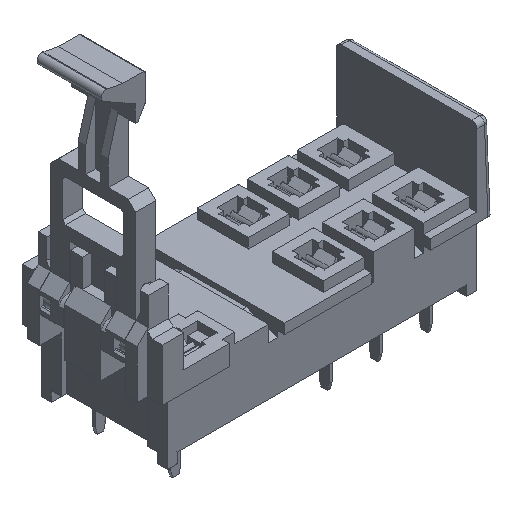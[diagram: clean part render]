
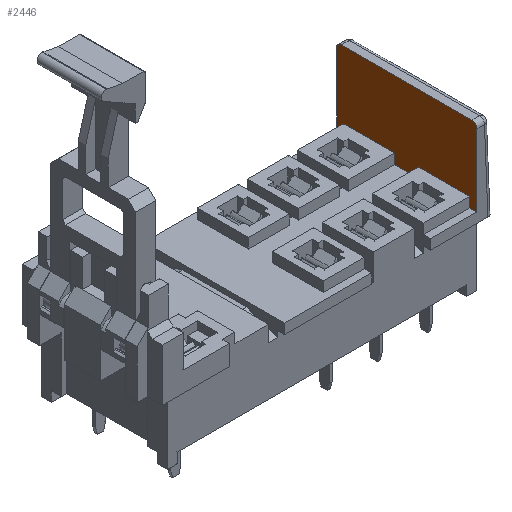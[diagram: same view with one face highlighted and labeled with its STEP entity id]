
A CAD part, isometric view. The second image highlights one B-rep face of the part: STEP entity #2446.
In plain terms, the highlighted planar face has unit normal (-1, 0, 0).
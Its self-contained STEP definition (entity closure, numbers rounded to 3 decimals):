
#88 = VERTEX_POINT ( 'NONE', #9881 ) ;
#484 = LINE ( 'NONE', #39869, #45935 ) ;
#700 = DIRECTION ( 'NONE',  ( 0., 0., -1. ) ) ;
#1027 = LINE ( 'NONE', #16275, #9458 ) ;
#1081 = EDGE_CURVE ( 'NONE', #25223, #33862, #26789, .T. ) ;
#1278 = VECTOR ( 'NONE', #20812, 1000. ) ;
#1338 = CARTESIAN_POINT ( 'NONE',  ( 19.021, 0.297, 6.5 ) ) ;
#1502 = ORIENTED_EDGE ( 'NONE', *, *, #1081, .T. ) ;
#1569 = CARTESIAN_POINT ( 'NONE',  ( 19.021, -2.103, 7.5 ) ) ;
#1783 = CARTESIAN_POINT ( 'NONE',  ( 19.021, -7.903, 6.5 ) ) ;
#1983 = VERTEX_POINT ( 'NONE', #17675 ) ;
#2160 = CARTESIAN_POINT ( 'NONE',  ( 19.021, -2.103, 6.5 ) ) ;
#2254 = VERTEX_POINT ( 'NONE', #2160 ) ;
#2446 = ADVANCED_FACE ( 'NONE', ( #37859 ), #38178, .T. ) ;
#3026 = EDGE_CURVE ( 'NONE', #43461, #21349, #28796, .T. ) ;
#3183 = VERTEX_POINT ( 'NONE', #10801 ) ;
#3370 = ORIENTED_EDGE ( 'NONE', *, *, #11118, .T. ) ;
#3650 = VECTOR ( 'NONE', #10959, 1000. ) ;
#3954 = ORIENTED_EDGE ( 'NONE', *, *, #14059, .T. ) ;
#4601 = VECTOR ( 'NONE', #41836, 1000. ) ;
#5020 = VERTEX_POINT ( 'NONE', #39804 ) ;
#5376 = CARTESIAN_POINT ( 'NONE',  ( 19.021, -7.403, 14.2 ) ) ;
#6069 = ORIENTED_EDGE ( 'NONE', *, *, #30506, .T. ) ;
#6486 = LINE ( 'NONE', #22325, #43508 ) ;
#6504 = EDGE_LOOP ( 'NONE', ( #7774, #31940, #19379, #17737, #16801, #16631, #13594, #3370, #3954, #19586, #37402, #1502, #6069, #41948 ) ) ;
#6631 = EDGE_CURVE ( 'NONE', #21349, #18273, #43144, .T. ) ;
#7206 = CARTESIAN_POINT ( 'NONE',  ( 19.021, 0.297, 7.5 ) ) ;
#7322 = CARTESIAN_POINT ( 'NONE',  ( 19.021, 5.397, 7.5 ) ) ;
#7487 = CARTESIAN_POINT ( 'NONE',  ( 19.021, 5.397, 6.5 ) ) ;
#7774 = ORIENTED_EDGE ( 'NONE', *, *, #20489, .T. ) ;
#8027 = EDGE_CURVE ( 'NONE', #36362, #5020, #1027, .T. ) ;
#8461 = CIRCLE ( 'NONE', #25378, 0.5 ) ;
#8988 = DIRECTION ( 'NONE',  ( 0., 1., 0. ) ) ;
#9335 = CARTESIAN_POINT ( 'NONE',  ( 19.021, 5.597, 13.7 ) ) ;
#9458 = VECTOR ( 'NONE', #37751, 1000. ) ;
#9484 = EDGE_CURVE ( 'NONE', #18273, #32052, #32274, .T. ) ;
#9881 = CARTESIAN_POINT ( 'NONE',  ( 19.021, 5.597, 14.2 ) ) ;
#10607 = DIRECTION ( 'NONE',  ( -1., 0., 0. ) ) ;
#10801 = CARTESIAN_POINT ( 'NONE',  ( 19.021, 6.097, 6.5 ) ) ;
#10959 = DIRECTION ( 'NONE',  ( 0., 0., -1. ) ) ;
#11118 = EDGE_CURVE ( 'NONE', #2254, #40190, #41639, .T. ) ;
#11244 = AXIS2_PLACEMENT_3D ( 'NONE', #12041, #37130, #15639 ) ;
#12041 = CARTESIAN_POINT ( 'NONE',  ( 19.021, 5.597, 13.7 ) ) ;
#13594 = ORIENTED_EDGE ( 'NONE', *, *, #30069, .T. ) ;
#14059 = EDGE_CURVE ( 'NONE', #40190, #36362, #21439, .T. ) ;
#14393 = VECTOR ( 'NONE', #8988, 1000. ) ;
#15328 = DIRECTION ( 'NONE',  ( 0., -1., 0. ) ) ;
#15515 = LINE ( 'NONE', #5376, #14393 ) ;
#15639 = DIRECTION ( 'NONE',  ( 0., 0., 1. ) ) ;
#15932 = CARTESIAN_POINT ( 'NONE',  ( 19.021, -7.903, 6.5 ) ) ;
#16275 = CARTESIAN_POINT ( 'NONE',  ( 19.021, -7.203, 7.5 ) ) ;
#16631 = ORIENTED_EDGE ( 'NONE', *, *, #9484, .T. ) ;
#16801 = ORIENTED_EDGE ( 'NONE', *, *, #6631, .T. ) ;
#16937 = LINE ( 'NONE', #40416, #25315 ) ;
#17111 = DIRECTION ( 'NONE',  ( 0., 0., 1. ) ) ;
#17258 = CARTESIAN_POINT ( 'NONE',  ( 19.021, -2.103, 7.5 ) ) ;
#17675 = CARTESIAN_POINT ( 'NONE',  ( 19.021, -7.403, 14.2 ) ) ;
#17737 = ORIENTED_EDGE ( 'NONE', *, *, #3026, .T. ) ;
#18273 = VERTEX_POINT ( 'NONE', #33318 ) ;
#18351 = VECTOR ( 'NONE', #26866, 1000. ) ;
#19194 = CARTESIAN_POINT ( 'NONE',  ( 19.021, 6.097, 13.7 ) ) ;
#19239 = EDGE_CURVE ( 'NONE', #45910, #3183, #6486, .T. ) ;
#19246 = VECTOR ( 'NONE', #17111, 1000. ) ;
#19379 = ORIENTED_EDGE ( 'NONE', *, *, #26863, .T. ) ;
#19586 = ORIENTED_EDGE ( 'NONE', *, *, #8027, .T. ) ;
#19981 = CARTESIAN_POINT ( 'NONE',  ( 19.021, -7.203, 7.5 ) ) ;
#20295 = DIRECTION ( 'NONE',  ( 0., 0., 1. ) ) ;
#20489 = EDGE_CURVE ( 'NONE', #88, #45910, #26059, .T. ) ;
#20812 = DIRECTION ( 'NONE',  ( 0., -1., 0. ) ) ;
#21349 = VERTEX_POINT ( 'NONE', #29656 ) ;
#21439 = LINE ( 'NONE', #17258, #1278 ) ;
#22325 = CARTESIAN_POINT ( 'NONE',  ( 19.021, 6.097, 13.7 ) ) ;
#23123 = EDGE_CURVE ( 'NONE', #5020, #25223, #34240, .T. ) ;
#24092 = VECTOR ( 'NONE', #28798, 1000. ) ;
#24679 = VECTOR ( 'NONE', #37035, 1000. ) ;
#25223 = VERTEX_POINT ( 'NONE', #15932 ) ;
#25315 = VECTOR ( 'NONE', #15328, 1000. ) ;
#25378 = AXIS2_PLACEMENT_3D ( 'NONE', #32085, #10607, #35696 ) ;
#26059 = CIRCLE ( 'NONE', #11244, 0.5 ) ;
#26789 = LINE ( 'NONE', #1783, #18351 ) ;
#26863 = EDGE_CURVE ( 'NONE', #3183, #43461, #484, .T. ) ;
#26866 = DIRECTION ( 'NONE',  ( 0., 0., 1. ) ) ;
#27749 = CARTESIAN_POINT ( 'NONE',  ( 19.021, 5.397, 6.5 ) ) ;
#28796 = LINE ( 'NONE', #27749, #19246 ) ;
#28798 = DIRECTION ( 'NONE',  ( 0., -1., 0. ) ) ;
#29508 = CARTESIAN_POINT ( 'NONE',  ( 19.021, -7.203, 6.5 ) ) ;
#29656 = CARTESIAN_POINT ( 'NONE',  ( 19.021, 5.397, 7.5 ) ) ;
#30069 = EDGE_CURVE ( 'NONE', #32052, #2254, #16937, .T. ) ;
#30506 = EDGE_CURVE ( 'NONE', #33862, #1983, #8461, .T. ) ;
#31940 = ORIENTED_EDGE ( 'NONE', *, *, #19239, .T. ) ;
#32052 = VERTEX_POINT ( 'NONE', #1338 ) ;
#32085 = CARTESIAN_POINT ( 'NONE',  ( 19.021, -7.403, 13.7 ) ) ;
#32274 = LINE ( 'NONE', #7206, #3650 ) ;
#32648 = DIRECTION ( 'NONE',  ( 0., -1., 0. ) ) ;
#32666 = EDGE_CURVE ( 'NONE', #1983, #88, #15515, .T. ) ;
#33318 = CARTESIAN_POINT ( 'NONE',  ( 19.021, 0.297, 7.5 ) ) ;
#33862 = VERTEX_POINT ( 'NONE', #37251 ) ;
#34240 = LINE ( 'NONE', #29508, #24679 ) ;
#34654 = CARTESIAN_POINT ( 'NONE',  ( 19.021, -2.103, 6.5 ) ) ;
#35696 = DIRECTION ( 'NONE',  ( 0., 0., 1. ) ) ;
#36362 = VERTEX_POINT ( 'NONE', #19981 ) ;
#36887 = AXIS2_PLACEMENT_3D ( 'NONE', #9335, #41755, #20295 ) ;
#37035 = DIRECTION ( 'NONE',  ( 0., -1., 0. ) ) ;
#37130 = DIRECTION ( 'NONE',  ( -1., 0., 0. ) ) ;
#37251 = CARTESIAN_POINT ( 'NONE',  ( 19.021, -7.903, 13.7 ) ) ;
#37402 = ORIENTED_EDGE ( 'NONE', *, *, #23123, .T. ) ;
#37751 = DIRECTION ( 'NONE',  ( 0., 0., -1. ) ) ;
#37859 = FACE_OUTER_BOUND ( 'NONE', #6504, .T. ) ;
#38178 = PLANE ( 'NONE',  #36887 ) ;
#39804 = CARTESIAN_POINT ( 'NONE',  ( 19.021, -7.203, 6.5 ) ) ;
#39869 = CARTESIAN_POINT ( 'NONE',  ( 19.021, 6.097, 6.5 ) ) ;
#40190 = VERTEX_POINT ( 'NONE', #1569 ) ;
#40416 = CARTESIAN_POINT ( 'NONE',  ( 19.021, 0.297, 6.5 ) ) ;
#41639 = LINE ( 'NONE', #34654, #4601 ) ;
#41755 = DIRECTION ( 'NONE',  ( -1., 0., 0. ) ) ;
#41836 = DIRECTION ( 'NONE',  ( 0., 0., 1. ) ) ;
#41948 = ORIENTED_EDGE ( 'NONE', *, *, #32666, .T. ) ;
#43144 = LINE ( 'NONE', #7322, #24092 ) ;
#43461 = VERTEX_POINT ( 'NONE', #7487 ) ;
#43508 = VECTOR ( 'NONE', #700, 1000. ) ;
#45910 = VERTEX_POINT ( 'NONE', #19194 ) ;
#45935 = VECTOR ( 'NONE', #32648, 1000. ) ;
